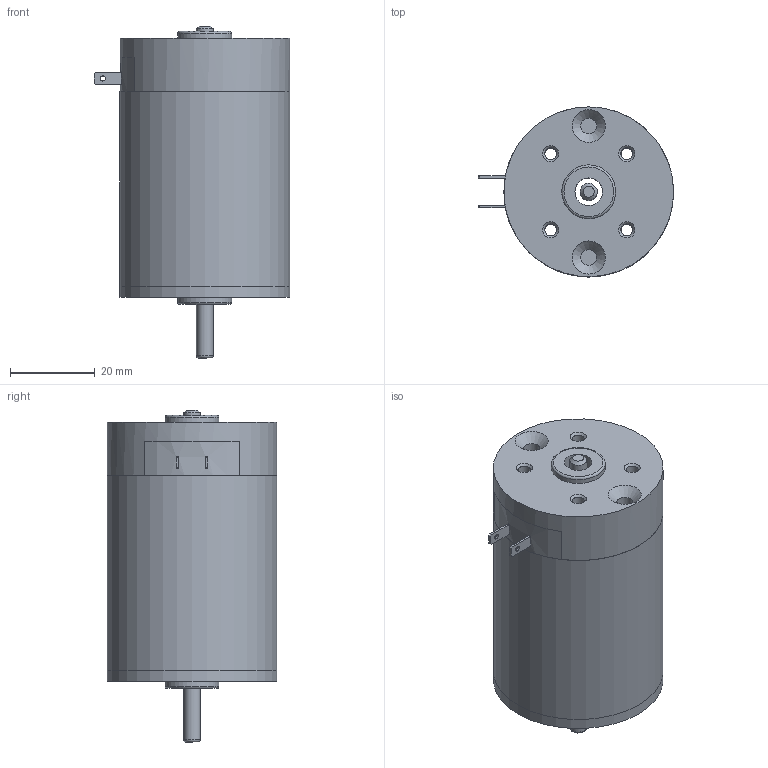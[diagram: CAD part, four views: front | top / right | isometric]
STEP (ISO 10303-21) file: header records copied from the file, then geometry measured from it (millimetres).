
FILE_DESCRIPTION((''),'2;1');
FILE_NAME('D:\연구개발부2팀 1파트\10_진행업무\3D\RM4_SERIES\RM44ㅁBT.stp','2014-06-23T10:35:45',('song'),(''),'Autodesk Inventor 2011','Autodesk Inventor 2011','');
FILE_SCHEMA(('AUTOMOTIVE_DESIGN { 1 0 10303 214 1 1 1 1 }'));
Length unit declared in the file: millimetre
Products named in the file (7): RM44ㅁBT; REAR_HOUSING__ASS'Y_TERMINAL; RM4TYPE_BRUSH_BRAKET_TERMINAL; RM4TYPE_REAR_HOUSING; RM4TYPE_FRONT_HOUSING_; RM44TYPE_SHAFT; RM4TYPE_PIPE_HOUSING_pi40XL45.9
Assembly tree (5 placements, depth 2):
  RM44ㅁBT
    RM4TYPE_FRONT_HOUSING_
    RM44TYPE_SHAFT
    RM4TYPE_PIPE_HOUSING_pi40XL45.9
  REAR_HOUSING__ASS'Y_TERMINAL
    RM4TYPE_BRUSH_BRAKET_TERMINAL
    RM4TYPE_REAR_HOUSING
Bounding box: 46 x 40 x 78.24 mm (x, y, z)
Volume: 21803.7 mm3; surface area: 21128.1 mm2
Topology: 5 solids, 5 shells, 76 faces, 175 edges, 114 vertices
Faces by surface type: plane 37, cylinder 24, cone 12, torus 3
Full cylindrical faces by diameter (mm): 1.2 x2, 2.7 x4, 2.8 x4, 3.7 x2, 3.969 x1, 4 x1, 6.5 x1, 6.65 x1, 12.7 x2, 36.5 x1, 40 x3
Entity records: 2205 total; most frequent: DIRECTION 376, CARTESIAN_POINT 325, ORIENTED_EDGE 260, AXIS2_PLACEMENT_3D 157, EDGE_LOOP 148, EDGE_CURVE 130, VERTEX_POINT 106, FACE_OUTER_BOUND 76
